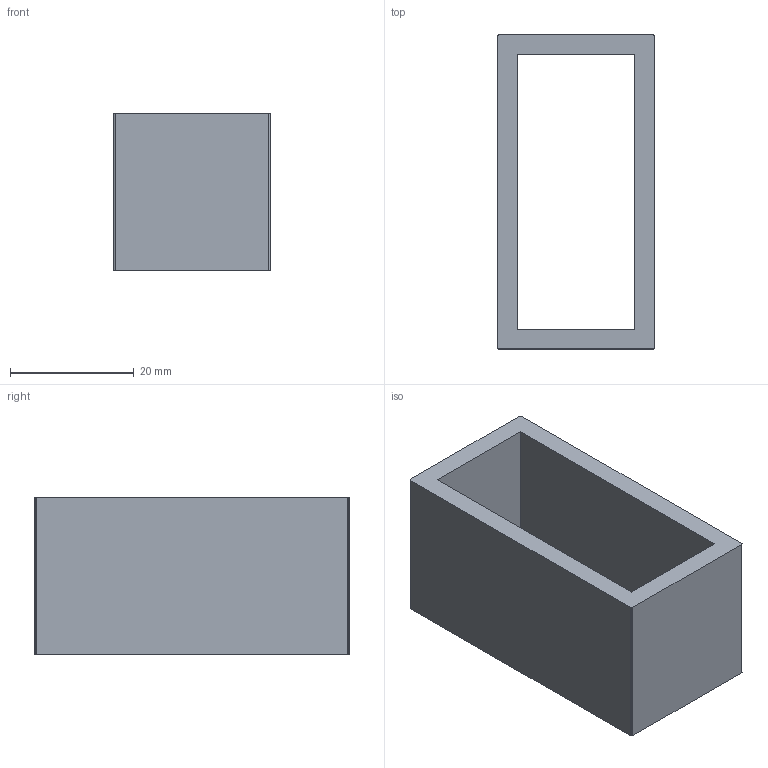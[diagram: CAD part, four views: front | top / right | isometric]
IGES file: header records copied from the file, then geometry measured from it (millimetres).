
Global section: file name: C:\Documents and Settings\Administrator\Desktop\Transfer Temp\sqtube2000x1000.igs; native system: AutoDesk Inventor R2.0 ; preprocessor: AutoDesk Inventor Iges Exporter R2.0; author: No Author specified; organization: No Organization specified; date: 20020121.083712; units: inch
Bounding box: 25.4 x 50.8 x 25.4 mm (x, y, z)
Surface area: 7972.7 mm2 (no closed solid volume)
Topology: 0 solids, 0 shells, 18 faces, 96 edges, 96 vertices
Faces by surface type: bspline 10, revolution 8
